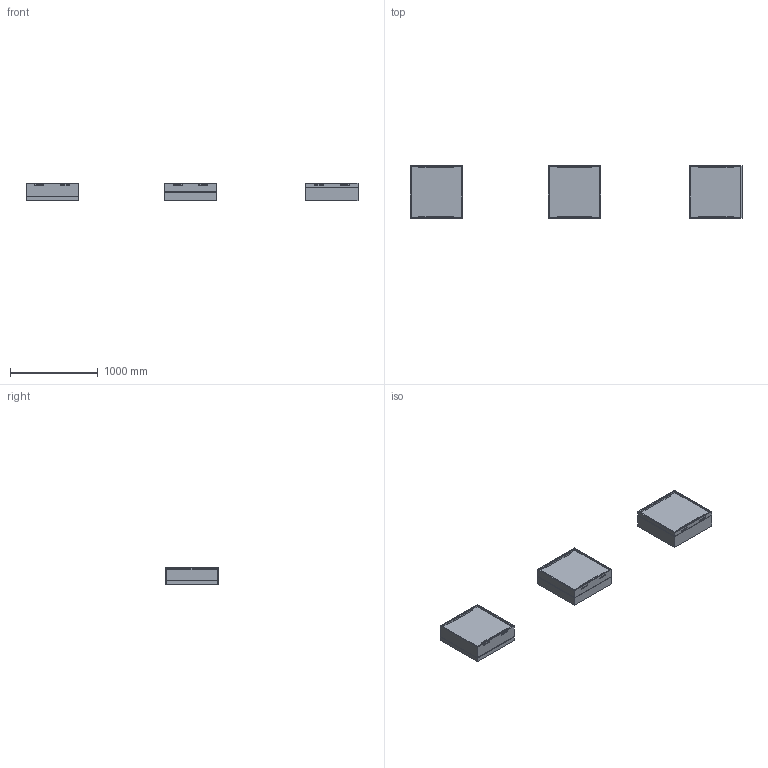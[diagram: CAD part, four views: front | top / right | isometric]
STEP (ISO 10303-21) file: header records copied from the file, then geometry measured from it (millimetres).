
FILE_DESCRIPTION(/* description */ (''),/* implementation_level */ '2;1');
FILE_NAME(/* name */ 'Coffa_Profile_1',/* time_stamp */ '2026-07-17T11:31:06-05:00',/* author */ (''),/* organization */ (''),/* preprocessor_version */ 'ST-DEVELOPER v19.2',/* originating_system */ 'Rhino 8.32',/* authorisation */ '');
FILE_SCHEMA (('CONFIG_CONTROL_DESIGN'));
Length unit declared in the file: inch
Products named in the file (1): Document
Bounding box: 3786.87 x 596.9 x 203.2 mm (x, y, z)
Volume: 29716445.6 mm3; surface area: 5323822.4 mm2
Topology: 12 solids, 12 shells, 222 faces, 576 edges, 384 vertices
Faces by surface type: plane 222
Entity records: 6400 total; most frequent: CARTESIAN_POINT 2192, ORIENTED_EDGE 1152, EDGE_CURVE 576, B_SPLINE_CURVE_WITH_KNOTS 576, VERTEX_POINT 384, EDGE_LOOP 258, DIRECTION 226, AXIS2_PLACEMENT_3D 224
